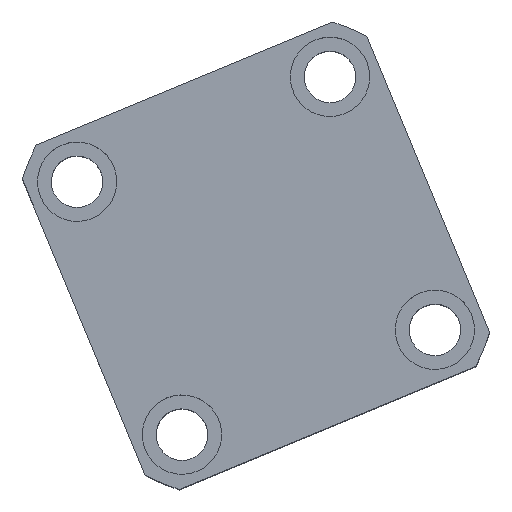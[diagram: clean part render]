
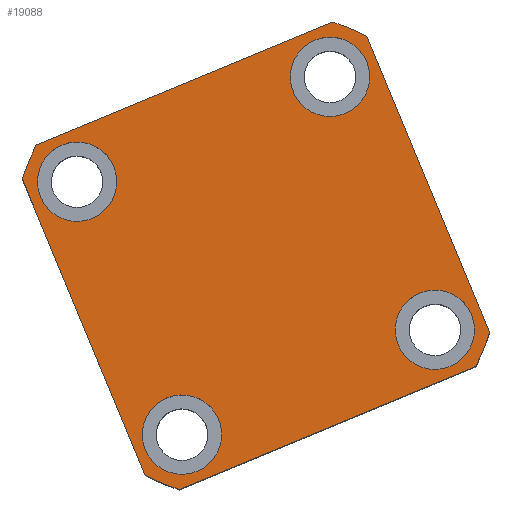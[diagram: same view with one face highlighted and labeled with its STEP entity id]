
A CAD part, top view. The second image highlights one B-rep face of the part: STEP entity #19088.
In plain terms, the highlighted planar face has unit normal (0, 0, 1) as drawn and (0, 0, -1) by its records, which use the part's own axes.
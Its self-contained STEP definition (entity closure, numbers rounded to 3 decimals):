
#303 = VERTEX_POINT ( 'NONE', #6872 ) ;
#397 = VERTEX_POINT ( 'NONE', #3385 ) ;
#511 = CARTESIAN_POINT ( 'NONE',  ( -44.5, 34.5, 0. ) ) ;
#870 = DIRECTION ( 'NONE',  ( 1., 0., 0. ) ) ;
#1079 = CARTESIAN_POINT ( 'NONE',  ( 0., 0., 0. ) ) ;
#1231 = VERTEX_POINT ( 'NONE', #17863 ) ;
#1424 = CARTESIAN_POINT ( 'NONE',  ( 44.5, 34.5, 0. ) ) ;
#1589 = DIRECTION ( 'NONE',  ( 1., 0., 0. ) ) ;
#1650 = FACE_BOUND ( 'NONE', #13904, .T. ) ;
#1679 = VERTEX_POINT ( 'NONE', #13093 ) ;
#1822 = CARTESIAN_POINT ( 'NONE',  ( -47., 47., 0. ) ) ;
#1962 = ORIENTED_EDGE ( 'NONE', *, *, #13169, .F. ) ;
#2321 = DIRECTION ( 'NONE',  ( 0., 0., -1. ) ) ;
#2680 = ORIENTED_EDGE ( 'NONE', *, *, #21391, .F. ) ;
#2830 = DIRECTION ( 'NONE',  ( 1., 0., 0. ) ) ;
#2833 = ORIENTED_EDGE ( 'NONE', *, *, #8686, .F. ) ;
#2856 = VERTEX_POINT ( 'NONE', #5726 ) ;
#3007 = ORIENTED_EDGE ( 'NONE', *, *, #8254, .F. ) ;
#3153 = CIRCLE ( 'NONE', #22163, 10. ) ;
#3260 = DIRECTION ( 'NONE',  ( 0., 0., -1. ) ) ;
#3263 = CARTESIAN_POINT ( 'NONE',  ( 47., -40.435, 0. ) ) ;
#3325 = EDGE_CURVE ( 'NONE', #15761, #7630, #5267, .T. ) ;
#3385 = CARTESIAN_POINT ( 'NONE',  ( 40.435, 47., 0. ) ) ;
#3931 = CARTESIAN_POINT ( 'NONE',  ( 34.5, 34.5, 0. ) ) ;
#4027 = EDGE_CURVE ( 'NONE', #1231, #303, #17680, .T. ) ;
#4115 = ORIENTED_EDGE ( 'NONE', *, *, #13469, .F. ) ;
#4340 = CIRCLE ( 'NONE', #9235, 10. ) ;
#4593 = EDGE_CURVE ( 'NONE', #14717, #14963, #17952, .T. ) ;
#4734 = CARTESIAN_POINT ( 'NONE',  ( -34.5, -34.5, 0. ) ) ;
#5140 = ORIENTED_EDGE ( 'NONE', *, *, #4027, .F. ) ;
#5267 = CIRCLE ( 'NONE', #11343, 10. ) ;
#5368 = DIRECTION ( 'NONE',  ( 0., -1., 0. ) ) ;
#5464 = EDGE_CURVE ( 'NONE', #397, #1679, #16442, .T. ) ;
#5663 = DIRECTION ( 'NONE',  ( -1., 0., 0. ) ) ;
#5726 = CARTESIAN_POINT ( 'NONE',  ( -47., 40.435, 0. ) ) ;
#5770 = VECTOR ( 'NONE', #9918, 1000. ) ;
#5785 = EDGE_CURVE ( 'NONE', #21578, #15091, #13216, .T. ) ;
#5892 = LINE ( 'NONE', #8851, #13996 ) ;
#5923 = EDGE_CURVE ( 'NONE', #9604, #397, #21801, .T. ) ;
#5942 = CARTESIAN_POINT ( 'NONE',  ( -34.5, -34.5, 0. ) ) ;
#6074 = EDGE_CURVE ( 'NONE', #10829, #10387, #21266, .T. ) ;
#6075 = LINE ( 'NONE', #1822, #18724 ) ;
#6249 = CARTESIAN_POINT ( 'NONE',  ( 0., 0., 0. ) ) ;
#6371 = CARTESIAN_POINT ( 'NONE',  ( -40.435, -47., 0. ) ) ;
#6409 = DIRECTION ( 'NONE',  ( 0., 0., -1. ) ) ;
#6484 = DIRECTION ( 'NONE',  ( -1., 0., 0. ) ) ;
#6857 = LINE ( 'NONE', #20221, #5770 ) ;
#6872 = CARTESIAN_POINT ( 'NONE',  ( -44.5, -34.5, 0. ) ) ;
#6884 = CIRCLE ( 'NONE', #12124, 62. ) ;
#6975 = DIRECTION ( 'NONE',  ( 1., 0., 0. ) ) ;
#7295 = AXIS2_PLACEMENT_3D ( 'NONE', #1079, #13205, #2830 ) ;
#7630 = VERTEX_POINT ( 'NONE', #14303 ) ;
#7674 = DIRECTION ( 'NONE',  ( -1., 0., 0. ) ) ;
#7758 = PLANE ( 'NONE',  #13318 ) ;
#7995 = DIRECTION ( 'NONE',  ( 1., 0., 0. ) ) ;
#8035 = CARTESIAN_POINT ( 'NONE',  ( -34.5, 34.5, 0. ) ) ;
#8100 = EDGE_CURVE ( 'NONE', #10387, #16761, #5892, .T. ) ;
#8254 = EDGE_CURVE ( 'NONE', #15091, #21578, #9404, .T. ) ;
#8686 = EDGE_CURVE ( 'NONE', #7630, #15761, #3153, .T. ) ;
#8851 = CARTESIAN_POINT ( 'NONE',  ( -47., -47., 0. ) ) ;
#9115 = CARTESIAN_POINT ( 'NONE',  ( 24.5, -34.5, 0. ) ) ;
#9235 = AXIS2_PLACEMENT_3D ( 'NONE', #4734, #16811, #6484 ) ;
#9343 = CARTESIAN_POINT ( 'NONE',  ( -47., 47., 0. ) ) ;
#9383 = ORIENTED_EDGE ( 'NONE', *, *, #22236, .F. ) ;
#9404 = CIRCLE ( 'NONE', #12971, 10. ) ;
#9418 = ORIENTED_EDGE ( 'NONE', *, *, #16051, .F. ) ;
#9488 = CARTESIAN_POINT ( 'NONE',  ( 0., 0., 0. ) ) ;
#9604 = VERTEX_POINT ( 'NONE', #11896 ) ;
#9752 = DIRECTION ( 'NONE',  ( -1., 0., 0. ) ) ;
#9918 = DIRECTION ( 'NONE',  ( 0., 1., 0. ) ) ;
#10071 = CARTESIAN_POINT ( 'NONE',  ( 34.5, -34.5, 0. ) ) ;
#10387 = VERTEX_POINT ( 'NONE', #6371 ) ;
#10412 = DIRECTION ( 'NONE',  ( -1., 0., 0. ) ) ;
#10829 = VERTEX_POINT ( 'NONE', #12985 ) ;
#10844 = FACE_OUTER_BOUND ( 'NONE', #17004, .T. ) ;
#11197 = CIRCLE ( 'NONE', #19877, 62. ) ;
#11207 = DIRECTION ( 'NONE',  ( 1., 0., 0. ) ) ;
#11222 = DIRECTION ( 'NONE',  ( 0., 0., 1. ) ) ;
#11343 = AXIS2_PLACEMENT_3D ( 'NONE', #10071, #22130, #11817 ) ;
#11397 = ORIENTED_EDGE ( 'NONE', *, *, #5923, .F. ) ;
#11517 = ORIENTED_EDGE ( 'NONE', *, *, #6074, .F. ) ;
#11620 = CIRCLE ( 'NONE', #22355, 10. ) ;
#11817 = DIRECTION ( 'NONE',  ( -1., 0., 0. ) ) ;
#11896 = CARTESIAN_POINT ( 'NONE',  ( 47., 40.435, 0. ) ) ;
#11957 = DIRECTION ( 'NONE',  ( 0., 0., 1. ) ) ;
#12124 = AXIS2_PLACEMENT_3D ( 'NONE', #6249, #18303, #7995 ) ;
#12359 = AXIS2_PLACEMENT_3D ( 'NONE', #12690, #2321, #14411 ) ;
#12690 = CARTESIAN_POINT ( 'NONE',  ( 34.5, 34.5, 0. ) ) ;
#12827 = DIRECTION ( 'NONE',  ( 0., 0., 1. ) ) ;
#12971 = AXIS2_PLACEMENT_3D ( 'NONE', #3931, #16009, #5663 ) ;
#12985 = CARTESIAN_POINT ( 'NONE',  ( -47., -40.435, 0. ) ) ;
#13093 = CARTESIAN_POINT ( 'NONE',  ( -40.435, 47., 0. ) ) ;
#13160 = VERTEX_POINT ( 'NONE', #3263 ) ;
#13169 = EDGE_CURVE ( 'NONE', #16761, #13160, #11197, .T. ) ;
#13205 = DIRECTION ( 'NONE',  ( 0., 0., 1. ) ) ;
#13216 = CIRCLE ( 'NONE', #12359, 10. ) ;
#13318 = AXIS2_PLACEMENT_3D ( 'NONE', #9488, #12827, #11207 ) ;
#13469 = EDGE_CURVE ( 'NONE', #2856, #10829, #6075, .T. ) ;
#13632 = CARTESIAN_POINT ( 'NONE',  ( -34.5, 34.5, 0. ) ) ;
#13904 = EDGE_LOOP ( 'NONE', ( #9383, #5140 ) ) ;
#13996 = VECTOR ( 'NONE', #6975, 1000. ) ;
#14023 = EDGE_LOOP ( 'NONE', ( #2680, #21618 ) ) ;
#14046 = EDGE_CURVE ( 'NONE', #1679, #2856, #6884, .T. ) ;
#14303 = CARTESIAN_POINT ( 'NONE',  ( 44.5, -34.5, 0. ) ) ;
#14411 = DIRECTION ( 'NONE',  ( -1., 0., 0. ) ) ;
#14428 = CARTESIAN_POINT ( 'NONE',  ( 24.5, 34.5, 0. ) ) ;
#14717 = VERTEX_POINT ( 'NONE', #18849 ) ;
#14963 = VERTEX_POINT ( 'NONE', #511 ) ;
#15091 = VERTEX_POINT ( 'NONE', #14428 ) ;
#15339 = DIRECTION ( 'NONE',  ( -1., 0., 0. ) ) ;
#15431 = FACE_BOUND ( 'NONE', #20688, .T. ) ;
#15469 = ORIENTED_EDGE ( 'NONE', *, *, #3325, .F. ) ;
#15761 = VERTEX_POINT ( 'NONE', #9115 ) ;
#15898 = VECTOR ( 'NONE', #10412, 1000. ) ;
#15935 = ORIENTED_EDGE ( 'NONE', *, *, #14046, .F. ) ;
#16009 = DIRECTION ( 'NONE',  ( 0., 0., -1. ) ) ;
#16051 = EDGE_CURVE ( 'NONE', #13160, #9604, #6857, .T. ) ;
#16442 = LINE ( 'NONE', #9343, #15898 ) ;
#16665 = AXIS2_PLACEMENT_3D ( 'NONE', #13632, #3260, #15339 ) ;
#16731 = CARTESIAN_POINT ( 'NONE',  ( 34.5, -34.5, 0. ) ) ;
#16761 = VERTEX_POINT ( 'NONE', #21642 ) ;
#16811 = DIRECTION ( 'NONE',  ( 0., 0., -1. ) ) ;
#17004 = EDGE_LOOP ( 'NONE', ( #11397, #9418, #1962, #19547, #11517, #4115, #15935, #19064 ) ) ;
#17680 = CIRCLE ( 'NONE', #18248, 10. ) ;
#17863 = CARTESIAN_POINT ( 'NONE',  ( -24.5, -34.5, 0. ) ) ;
#17952 = CIRCLE ( 'NONE', #16665, 10. ) ;
#18005 = DIRECTION ( 'NONE',  ( 0., 0., -1. ) ) ;
#18248 = AXIS2_PLACEMENT_3D ( 'NONE', #5942, #18005, #7674 ) ;
#18303 = DIRECTION ( 'NONE',  ( 0., 0., 1. ) ) ;
#18460 = DIRECTION ( 'NONE',  ( -1., 0., 0. ) ) ;
#18724 = VECTOR ( 'NONE', #5368, 1000. ) ;
#18849 = CARTESIAN_POINT ( 'NONE',  ( -24.5, 34.5, 0. ) ) ;
#19064 = ORIENTED_EDGE ( 'NONE', *, *, #5464, .F. ) ;
#19088 = ADVANCED_FACE ( 'NONE', ( #20525, #1650, #15431, #19997, #10844 ), #7758, .F. ) ;
#19240 = AXIS2_PLACEMENT_3D ( 'NONE', #21537, #11222, #870 ) ;
#19411 = EDGE_LOOP ( 'NONE', ( #3007, #20764 ) ) ;
#19547 = ORIENTED_EDGE ( 'NONE', *, *, #8100, .F. ) ;
#19877 = AXIS2_PLACEMENT_3D ( 'NONE', #22268, #11957, #1589 ) ;
#19997 = FACE_BOUND ( 'NONE', #14023, .T. ) ;
#20061 = DIRECTION ( 'NONE',  ( 0., 0., -1. ) ) ;
#20221 = CARTESIAN_POINT ( 'NONE',  ( 47., 47., 0. ) ) ;
#20525 = FACE_BOUND ( 'NONE', #19411, .T. ) ;
#20688 = EDGE_LOOP ( 'NONE', ( #15469, #2833 ) ) ;
#20764 = ORIENTED_EDGE ( 'NONE', *, *, #5785, .F. ) ;
#21266 = CIRCLE ( 'NONE', #7295, 62. ) ;
#21391 = EDGE_CURVE ( 'NONE', #14963, #14717, #11620, .T. ) ;
#21537 = CARTESIAN_POINT ( 'NONE',  ( 0., 0., 0. ) ) ;
#21578 = VERTEX_POINT ( 'NONE', #1424 ) ;
#21618 = ORIENTED_EDGE ( 'NONE', *, *, #4593, .F. ) ;
#21642 = CARTESIAN_POINT ( 'NONE',  ( 40.435, -47., 0. ) ) ;
#21801 = CIRCLE ( 'NONE', #19240, 62. ) ;
#22130 = DIRECTION ( 'NONE',  ( 0., 0., -1. ) ) ;
#22163 = AXIS2_PLACEMENT_3D ( 'NONE', #16731, #6409, #18460 ) ;
#22236 = EDGE_CURVE ( 'NONE', #303, #1231, #4340, .T. ) ;
#22268 = CARTESIAN_POINT ( 'NONE',  ( 0., 0., 0. ) ) ;
#22355 = AXIS2_PLACEMENT_3D ( 'NONE', #8035, #20061, #9752 ) ;
